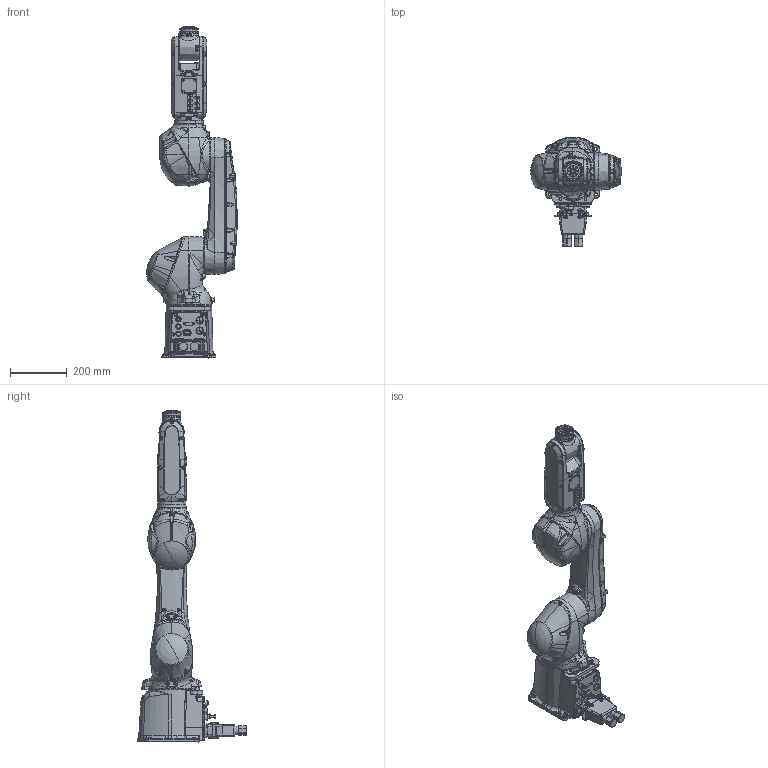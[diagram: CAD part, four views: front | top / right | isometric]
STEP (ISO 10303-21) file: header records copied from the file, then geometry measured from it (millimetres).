
FILE_DESCRIPTION(('CATIA V5 STEP Exchange'),'2;1');
FILE_NAME('D:\モデリング\☆☆☆STEP\RS\RS007\RS007N\RS007N-BC01_200707\RARAS_200707\軽量化\Part\RS007N-BC01.stp','2020-07-10T04:57:03+00:00',('none'),('none'),'CATIA Version 5-6 Release 2016 SP6 HF14','CATIA V5 STEP AP203','none');
FILE_SCHEMA(('CONFIG_CONTROL_DESIGN'));
Products named in the file (1): RS007N-BC01
Assembly tree (7 placements, depth 2):
  RS007N-BC01
    #57
    #55874
    #91741
    #148548
    #200540
    #243238
    #258109
Bounding box: 318.3 x 386.31 x 1168 mm (x, y, z)
Volume: 22587633.5 mm3; surface area: 1004360.5 mm2
Topology: 8 solids, 8 shells, 4960 faces, 12402 edges, 7554 vertices
Faces by surface type: plane 1556, bspline 1544, cylinder 1203, cone 308, torus 212, sphere 74, extrusion 35, revolution 28
Entity records: 260196 total; most frequent: CARTESIAN_POINT 163220, ORIENTED_EDGE 24362, EDGE_CURVE 12181, DIRECTION 11709, VERTEX_POINT 7554, B_SPLINE_CURVE_WITH_KNOTS 6059, EDGE_LOOP 5310, AXIS2_PLACEMENT_3D 5297
